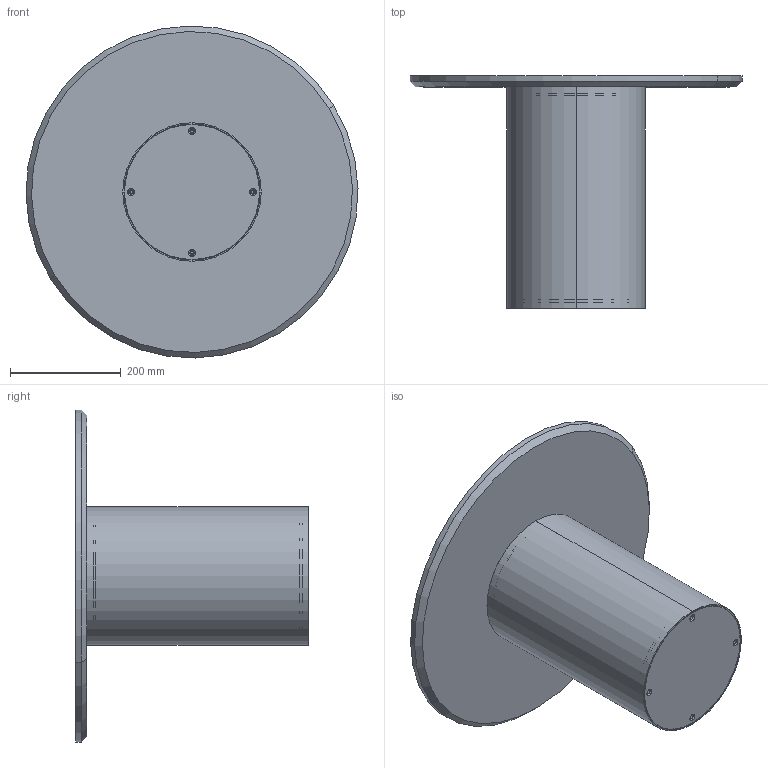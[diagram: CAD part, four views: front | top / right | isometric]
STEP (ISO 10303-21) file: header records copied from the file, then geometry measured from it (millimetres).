
FILE_DESCRIPTION (( 'STEP AP203' ), '1' );
FILE_NAME ('CL01M.STEP', '2024-08-06T10:09:36', ( '' ), ( '' ), 'SwSTEP 2.0', 'SolidWorks 2022', '' );
FILE_SCHEMA (( 'CONFIG_CONTROL_DESIGN' ));
Length unit declared in the file: millimetre
Products named in the file (13): CLB2000000_05-00-ring per piano cilindro low D.25cm; CLB2000000_02-00-Fusto centrale D.25cm; CLB2000000_04-00-ring per zavorra cilindro low D.25cm; CL01M; nut_M8_M8; M0X-00- D. piani marmo_D.600; CLB2000000-01-CILINDRO LOW D.25cm BASE GREZZA; GRANO M8_barra; P0000006-00-PIASTRA D.150mm X PIANI CER_CRI_MARMO_PIASTRA; CLB2000000_06-00-traversino per piano cilindro low D.25cm; M0XMXX-00-Piani Rotondi in marmo_D.60 CON PIASTRA; M8xXXmm_M8x16mm; CLB2000000_03-01-Zavorra cilindro low D.25cm
Assembly tree (14 placements, depth 3):
  CL01M
    M0XMXX-00-Piani Rotondi in marmo_D.60 CON PIASTRA
      M0X-00- D. piani marmo_D.600
      P0000006-00-PIASTRA D.150mm X PIANI CER_CRI_MARMO_PIASTRA
      M8xXXmm_M8x16mm  x3
    CLB2000000-01-CILINDRO LOW D.25cm BASE GREZZA
      CLB2000000_02-00-Fusto centrale D.25cm
      CLB2000000_04-00-ring per zavorra cilindro low D.25cm
      CLB2000000_05-00-ring per piano cilindro low D.25cm
      CLB2000000_06-00-traversino per piano cilindro low D.25cm
      nut_M8_M8
      CLB2000000_03-01-Zavorra cilindro low D.25cm
    GRANO M8_barra
Bounding box: 599.85 x 420 x 599.85 mm (x, y, z)
Volume: 6929493.3 mm3; surface area: 1459718.3 mm2
Topology: 12 solids, 12 shells, 233 faces, 538 edges, 322 vertices
Faces by surface type: cylinder 84, plane 74, cone 63, torus 12
Entity records: 6418 total; most frequent: CARTESIAN_POINT 1007, DIRECTION 917, ORIENTED_EDGE 768, EDGE_CURVE 384, AXIS2_PLACEMENT_3D 382, VERTEX_POINT 242, EDGE_LOOP 206, CIRCLE 196
